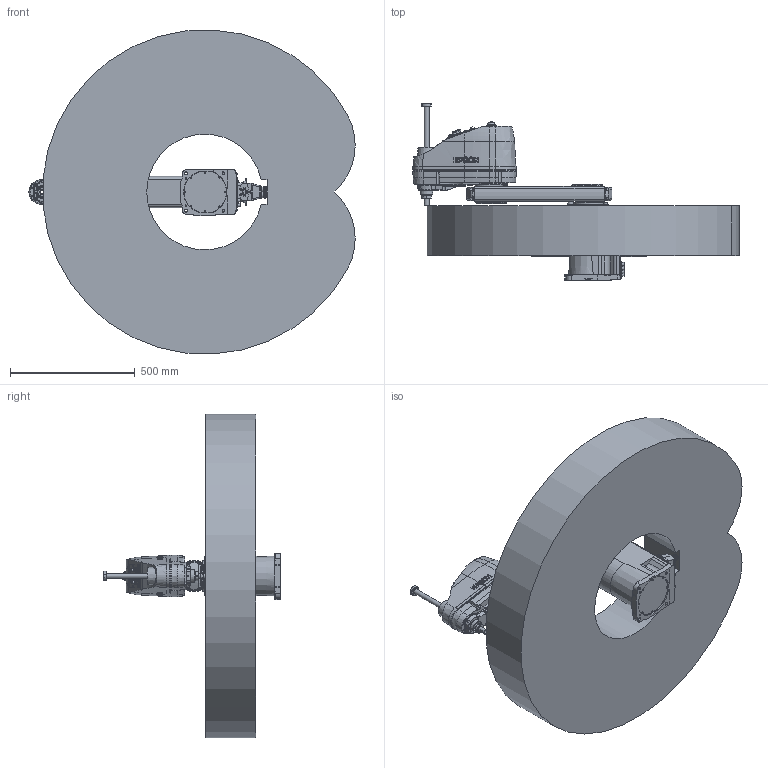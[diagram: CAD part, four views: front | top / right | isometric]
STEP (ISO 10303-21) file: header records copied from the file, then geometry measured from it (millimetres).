
FILE_DESCRIPTION( ( 'STEP AP214' ), '1' );
FILE_NAME( 'C:/Users/9607552/Desktop/GX8-B652S_straight.stp', '2023-07-07T02:53:23', ( '' ), ( '' ), ' ', 'PARTsolutions', ' ' );
FILE_SCHEMA( ( 'AUTOMOTIVE_DESIGN { 1 0 10303 214 1 1 1 1 }' ) );
Length unit declared in the file: millimetre
Products named in the file (9): GX8-B652SS-W; _B452S_BASE; _B652S; _B652S_1; _B652S_2; _B452S_J2; _B452SZA; _Straight-B; _GX8-25-B_WS
Assembly tree (10 placements, depth 2):
  GX8-B652SS-W
    _B452S_BASE
    _B652S
    _B652S_1  x2
    _B652S_2  x2
    _B452S_J2
    _B452SZA
    _Straight-B
    _GX8-25-B_WS
Bounding box: 1308.1 x 709 x 1298.02 mm (x, y, z)
Volume: 249400960.3 mm3; surface area: 4509856.2 mm2
Topology: 10 solids, 10 shells, 2887 faces, 7042 edges, 4586 vertices
Faces by surface type: plane 1437, cylinder 920, cone 365, torus 122, bspline 37, sphere 6
Full cylindrical faces by diameter (mm): 1 x48, 1.18 x55, 2.261 x4, 2.459 x12, 3 x32, 3.242 x18, 3.3 x5, 3.9 x4, 4 x4, 4.2 x8, 4.5 x4, 4.8 x4, 5.34 x4, 5.5 x17, 6 x1, 6.2 x4, 6.647 x4, 6.8 x2, 7 x48, 8 x5, 8.5 x4, 9 x24, 10 x18, 11 x4, 11.2 x5, 11.5 x1, 12 x5, 12.25 x1, 13 x3, 13.2 x12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
Entity records: 103061 total; most frequent: CARTESIAN_POINT 19674, DIRECTION 12682, ORIENTED_EDGE 11734, EDGE_CURVE 5867, AXIS2_PLACEMENT_3D 4903, VERTEX_POINT 4216, EDGE_LOOP 3814, FACE_OUTER_BOUND 3176
